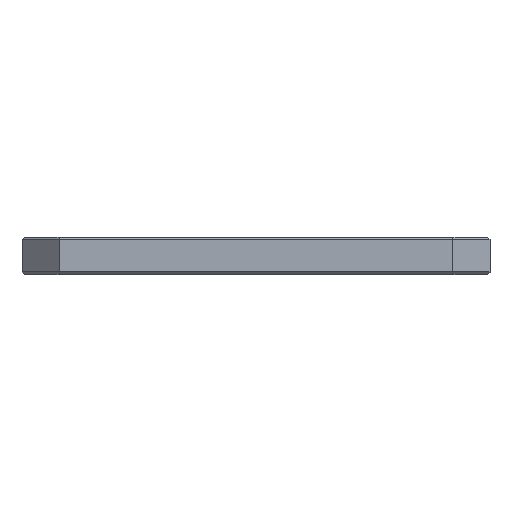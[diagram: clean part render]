
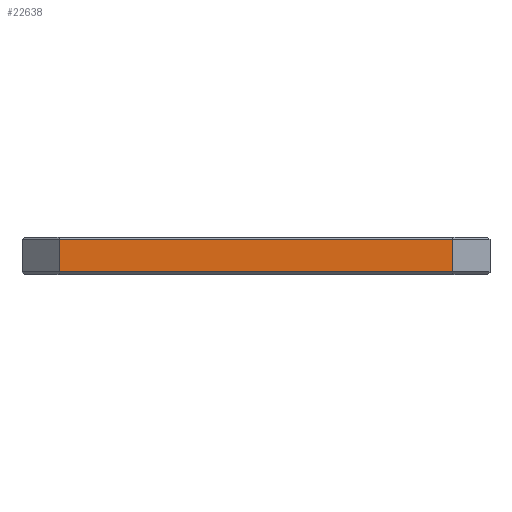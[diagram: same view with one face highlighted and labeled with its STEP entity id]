
A CAD part, top view. The second image highlights one B-rep face of the part: STEP entity #22638.
In plain terms, the highlighted planar face has unit normal (0, 0, 1).
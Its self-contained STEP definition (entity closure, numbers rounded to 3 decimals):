
#8013=DIRECTION('',(1.,0.,0.));
#8014=VECTOR('',#8013,530.);
#8015=CARTESIAN_POINT('',(-265.,22.,315.));
#8016=LINE('',#8015,#8014);
#8017=DIRECTION('',(0.,-1.,0.));
#8018=VECTOR('',#8017,44.);
#8019=CARTESIAN_POINT('',(265.,22.,315.));
#8020=LINE('',#8019,#8018);
#8021=DIRECTION('',(-1.,0.,0.));
#8022=VECTOR('',#8021,530.);
#8023=CARTESIAN_POINT('',(265.,-22.,315.));
#8024=LINE('',#8023,#8022);
#8025=DIRECTION('',(0.,-1.,0.));
#8026=VECTOR('',#8025,44.);
#8027=CARTESIAN_POINT('',(-265.,22.,315.));
#8028=LINE('',#8027,#8026);
#9299=CARTESIAN_POINT('',(265.,22.,315.));
#9301=VERTEX_POINT('',#9299);
#9329=CARTESIAN_POINT('',(-265.,22.,315.));
#9330=VERTEX_POINT('',#9329);
#9331=CARTESIAN_POINT('',(-265.,-22.,315.));
#9333=VERTEX_POINT('',#9331);
#9361=CARTESIAN_POINT('',(265.,-22.,315.));
#9362=VERTEX_POINT('',#9361);
#22625=CARTESIAN_POINT('',(-315.,-25.,315.));
#22626=DIRECTION('',(0.,0.,1.));
#22627=DIRECTION('',(1.,0.,0.));
#22628=AXIS2_PLACEMENT_3D('',#22625,#22626,#22627);
#22629=PLANE('',#22628);
#22630=ORIENTED_EDGE('',*,*,#22616,.T.);
#22632=ORIENTED_EDGE('',*,*,#22631,.T.);
#22634=ORIENTED_EDGE('',*,*,#22633,.T.);
#22635=ORIENTED_EDGE('',*,*,#22589,.F.);
#22636=EDGE_LOOP('',(#22630,#22632,#22634,#22635));
#22637=FACE_OUTER_BOUND('',#22636,.F.);
#22638=ADVANCED_FACE('',(#22637),#22629,.T.);
#22589=EDGE_CURVE('',#9330,#9333,#8028,.T.);
#22616=EDGE_CURVE('',#9330,#9301,#8016,.T.);
#22631=EDGE_CURVE('',#9301,#9362,#8020,.T.);
#22633=EDGE_CURVE('',#9362,#9333,#8024,.T.);
